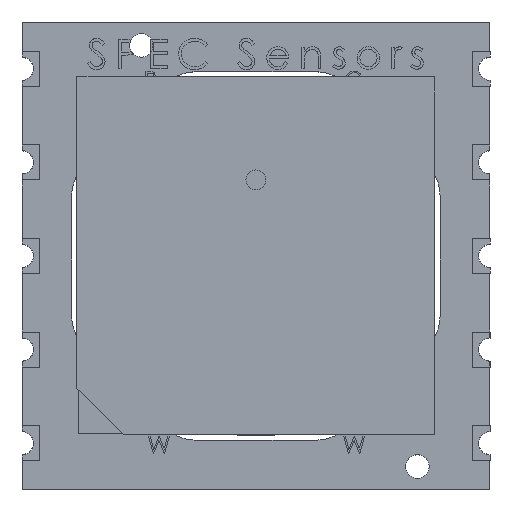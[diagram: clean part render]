
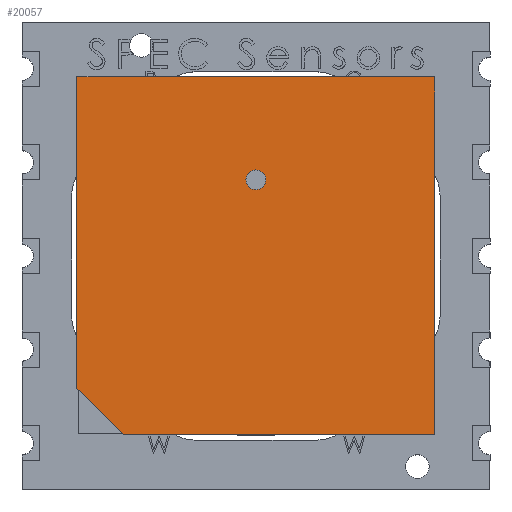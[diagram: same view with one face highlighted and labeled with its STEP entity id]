
A CAD part, top view. The second image highlights one B-rep face of the part: STEP entity #20057.
In plain terms, the highlighted planar face has unit normal (0, 0, 1).
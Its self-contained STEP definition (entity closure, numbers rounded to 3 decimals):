
#552 = DIRECTION ( 'NONE',  ( 1., 0., 0. ) ) ;
#901 = EDGE_CURVE ( 'NONE', #7364, #7364, #28311, .T. ) ;
#1260 = VECTOR ( 'NONE', #16952, 1000. ) ;
#1553 = CARTESIAN_POINT ( 'NONE',  ( -20.012, 22.389, 1.648 ) ) ;
#3194 = EDGE_CURVE ( 'NONE', #5148, #24202, #13555, .T. ) ;
#3294 = AXIS2_PLACEMENT_3D ( 'NONE', #9282, #9086, #4831 ) ;
#3479 = CARTESIAN_POINT ( 'NONE',  ( 0., 0., 1.648 ) ) ;
#4388 = CARTESIAN_POINT ( 'NONE',  ( -4.712, 7.089, 1.648 ) ) ;
#4786 = VECTOR ( 'NONE', #16567, 1000. ) ;
#4831 = DIRECTION ( 'NONE',  ( 1., 0., 0. ) ) ;
#5148 = VERTEX_POINT ( 'NONE', #19934 ) ;
#5526 = LINE ( 'NONE', #17797, #14994 ) ;
#6308 = FACE_BOUND ( 'NONE', #20963, .T. ) ;
#6775 = CARTESIAN_POINT ( 'NONE',  ( -20.012, 9.089, 1.648 ) ) ;
#6828 = VERTEX_POINT ( 'NONE', #24613 ) ;
#7364 = VERTEX_POINT ( 'NONE', #9403 ) ;
#8105 = EDGE_CURVE ( 'NONE', #23012, #6828, #12105, .T. ) ;
#8587 = LINE ( 'NONE', #10262, #1260 ) ;
#9086 = DIRECTION ( 'NONE',  ( 0., 0., 1. ) ) ;
#9282 = CARTESIAN_POINT ( 'NONE',  ( -12.362, 17.989, 1.648 ) ) ;
#9403 = CARTESIAN_POINT ( 'NONE',  ( -11.937, 17.989, 1.648 ) ) ;
#10262 = CARTESIAN_POINT ( 'NONE',  ( -18.012, 7.089, 1.648 ) ) ;
#10712 = VECTOR ( 'NONE', #17875, 1000. ) ;
#11123 = VECTOR ( 'NONE', #28241, 1000. ) ;
#12105 = LINE ( 'NONE', #18261, #10712 ) ;
#12287 = ORIENTED_EDGE ( 'NONE', *, *, #27323, .T. ) ;
#13555 = LINE ( 'NONE', #1553, #11123 ) ;
#14191 = VERTEX_POINT ( 'NONE', #4388 ) ;
#14570 = LINE ( 'NONE', #27677, #4786 ) ;
#14994 = VECTOR ( 'NONE', #22587, 1000. ) ;
#15412 = ORIENTED_EDGE ( 'NONE', *, *, #15847, .T. ) ;
#15847 = EDGE_CURVE ( 'NONE', #6828, #14191, #8587, .T. ) ;
#15848 = ORIENTED_EDGE ( 'NONE', *, *, #8105, .T. ) ;
#16110 = AXIS2_PLACEMENT_3D ( 'NONE', #3479, #27629, #552 ) ;
#16567 = DIRECTION ( 'NONE',  ( 0., -1., 0. ) ) ;
#16952 = DIRECTION ( 'NONE',  ( 1., 0., 0. ) ) ;
#16973 = ORIENTED_EDGE ( 'NONE', *, *, #3194, .T. ) ;
#17797 = CARTESIAN_POINT ( 'NONE',  ( -4.712, 22.389, 1.648 ) ) ;
#17875 = DIRECTION ( 'NONE',  ( 0.707, -0.707, 0. ) ) ;
#18261 = CARTESIAN_POINT ( 'NONE',  ( -20.012, 9.089, 1.648 ) ) ;
#18270 = FACE_OUTER_BOUND ( 'NONE', #19430, .T. ) ;
#19430 = EDGE_LOOP ( 'NONE', ( #12287, #16973, #20509, #15848, #15412 ) ) ;
#19934 = CARTESIAN_POINT ( 'NONE',  ( -4.712, 22.389, 1.648 ) ) ;
#20037 = CARTESIAN_POINT ( 'NONE',  ( -20.012, 22.389, 1.648 ) ) ;
#20057 = ADVANCED_FACE ( 'NONE', ( #6308, #18270 ), #23606, .T. ) ;
#20509 = ORIENTED_EDGE ( 'NONE', *, *, #21507, .T. ) ;
#20963 = EDGE_LOOP ( 'NONE', ( #28202 ) ) ;
#21507 = EDGE_CURVE ( 'NONE', #24202, #23012, #14570, .T. ) ;
#22587 = DIRECTION ( 'NONE',  ( 0., 1., 0. ) ) ;
#23012 = VERTEX_POINT ( 'NONE', #6775 ) ;
#23606 = PLANE ( 'NONE',  #16110 ) ;
#24202 = VERTEX_POINT ( 'NONE', #20037 ) ;
#24613 = CARTESIAN_POINT ( 'NONE',  ( -18.012, 7.089, 1.648 ) ) ;
#27323 = EDGE_CURVE ( 'NONE', #14191, #5148, #5526, .T. ) ;
#27629 = DIRECTION ( 'NONE',  ( 0., 0., 1. ) ) ;
#27677 = CARTESIAN_POINT ( 'NONE',  ( -20.012, 22.389, 1.648 ) ) ;
#28202 = ORIENTED_EDGE ( 'NONE', *, *, #901, .F. ) ;
#28241 = DIRECTION ( 'NONE',  ( -1., 0., 0. ) ) ;
#28311 = CIRCLE ( 'NONE', #3294, 0.425 ) ;
